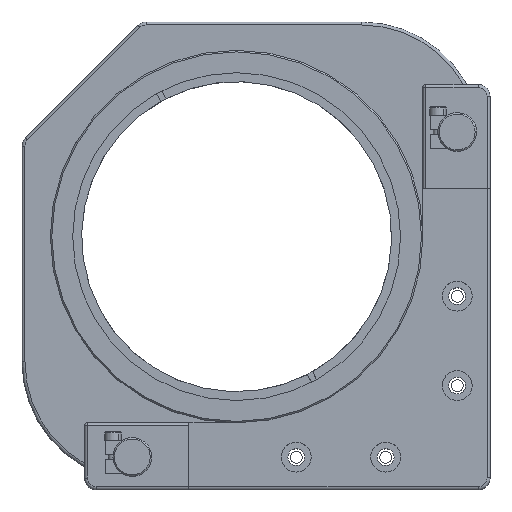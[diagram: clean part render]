
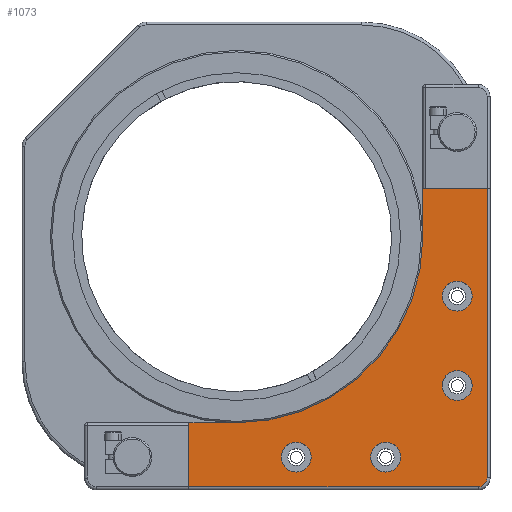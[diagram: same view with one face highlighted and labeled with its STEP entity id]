
A CAD part, top view. The second image highlights one B-rep face of the part: STEP entity #1073.
In plain terms, the highlighted planar face has unit normal (0, 0, 1).
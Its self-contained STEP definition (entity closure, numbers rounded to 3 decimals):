
#10 = LINE ( 'NONE', #367, #1453 ) ;
#36 = DIRECTION ( 'NONE',  ( 0., 0., 1. ) ) ;
#67 = DIRECTION ( 'NONE',  ( 1., 0., 0. ) ) ;
#133 = LINE ( 'NONE', #6903, #239 ) ;
#152 = VERTEX_POINT ( 'NONE', #8147 ) ;
#213 = LINE ( 'NONE', #6303, #323 ) ;
#236 = EDGE_CURVE ( 'NONE', #4759, #8592, #133, .T. ) ;
#239 = VECTOR ( 'NONE', #6725, 1000. ) ;
#323 = VECTOR ( 'NONE', #6152, 1000. ) ;
#332 = DIRECTION ( 'NONE',  ( 0., 0., 1. ) ) ;
#355 = ORIENTED_EDGE ( 'NONE', *, *, #8511, .T. ) ;
#367 = CARTESIAN_POINT ( 'NONE',  ( -21., -80., 8. ) ) ;
#420 = DIRECTION ( 'NONE',  ( 1., 0., 0. ) ) ;
#445 = EDGE_CURVE ( 'NONE', #6214, #7456, #4758, .T. ) ;
#504 = ORIENTED_EDGE ( 'NONE', *, *, #4830, .T. ) ;
#535 = DIRECTION ( 'NONE',  ( 0., 1., 0. ) ) ;
#613 = CARTESIAN_POINT ( 'NONE',  ( 76., -79., 8. ) ) ;
#923 = VERTEX_POINT ( 'NONE', #1200 ) ;
#989 = ORIENTED_EDGE ( 'NONE', *, *, #2345, .F. ) ;
#1014 = CIRCLE ( 'NONE', #4280, 3. ) ;
#1047 = VERTEX_POINT ( 'NONE', #6511 ) ;
#1073 = ADVANCED_FACE ( 'NONE', ( #8368, #8359, #8570, #8237, #8004 ), #1879, .F. ) ;
#1118 = LINE ( 'NONE', #4934, #4275 ) ;
#1145 = EDGE_CURVE ( 'NONE', #2220, #5980, #7772, .T. ) ;
#1168 = CARTESIAN_POINT ( 'NONE',  ( -21., -57.5, 8. ) ) ;
#1200 = CARTESIAN_POINT ( 'NONE',  ( 79., -76., 8. ) ) ;
#1217 = AXIS2_PLACEMENT_3D ( 'NONE', #1931, #1719, #1716 ) ;
#1292 = CARTESIAN_POINT ( 'NONE',  ( -5., -57.5, 8. ) ) ;
#1362 = VERTEX_POINT ( 'NONE', #5087 ) ;
#1442 = CIRCLE ( 'NONE', #8804, 5. ) ;
#1453 = VECTOR ( 'NONE', #535, 1000. ) ;
#1716 = DIRECTION ( 'NONE',  ( -1., 0., 0. ) ) ;
#1719 = DIRECTION ( 'NONE',  ( 0., 0., -1. ) ) ;
#1846 = DIRECTION ( 'NONE',  ( 0., 0., 1. ) ) ;
#1857 = DIRECTION ( 'NONE',  ( 1., 0., 0. ) ) ;
#1865 = CARTESIAN_POINT ( 'NONE',  ( 69., -45., 8. ) ) ;
#1879 = PLANE ( 'NONE',  #1217 ) ;
#1931 = CARTESIAN_POINT ( 'NONE',  ( 80., 80., 8. ) ) ;
#2044 = EDGE_CURVE ( 'NONE', #1362, #5215, #2048, .T. ) ;
#2048 = CIRCLE ( 'NONE', #5023, 5. ) ;
#2090 = CARTESIAN_POINT ( 'NONE',  ( 64., -15., 8. ) ) ;
#2129 = ORIENTED_EDGE ( 'NONE', *, *, #8568, .F. ) ;
#2138 = ORIENTED_EDGE ( 'NONE', *, *, #8894, .F. ) ;
#2164 = AXIS2_PLACEMENT_3D ( 'NONE', #7238, #332, #420 ) ;
#2182 = CARTESIAN_POINT ( 'NONE',  ( 10., -69., 8. ) ) ;
#2220 = VERTEX_POINT ( 'NONE', #2090 ) ;
#2257 = ORIENTED_EDGE ( 'NONE', *, *, #445, .F. ) ;
#2345 = EDGE_CURVE ( 'NONE', #7723, #152, #1442, .T. ) ;
#2393 = CARTESIAN_POINT ( 'NONE',  ( 20., -69., 8. ) ) ;
#2488 = DIRECTION ( 'NONE',  ( -1., 0., 0. ) ) ;
#2570 = ORIENTED_EDGE ( 'NONE', *, *, #8314, .F. ) ;
#2844 = ORIENTED_EDGE ( 'NONE', *, *, #7419, .T. ) ;
#2848 = CARTESIAN_POINT ( 'NONE',  ( 69., -15., 8. ) ) ;
#2909 = DIRECTION ( 'NONE',  ( 1., 0., 0. ) ) ;
#3099 = CARTESIAN_POINT ( 'NONE',  ( 40., -69., 8. ) ) ;
#3101 = CARTESIAN_POINT ( 'NONE',  ( 45., -69., 8. ) ) ;
#3103 = DIRECTION ( 'NONE',  ( 0., 0., 1. ) ) ;
#3122 = DIRECTION ( 'NONE',  ( 1., 0., 0. ) ) ;
#3218 = CARTESIAN_POINT ( 'NONE',  ( 15., -69., 8. ) ) ;
#3228 = DIRECTION ( 'NONE',  ( 1., 0., 0. ) ) ;
#3271 = DIRECTION ( 'NONE',  ( 0., 0., 1. ) ) ;
#3314 = VERTEX_POINT ( 'NONE', #1168 ) ;
#3709 = VERTEX_POINT ( 'NONE', #1292 ) ;
#3828 = DIRECTION ( 'NONE',  ( 0., 0., 1. ) ) ;
#4032 = ORIENTED_EDGE ( 'NONE', *, *, #1145, .F. ) ;
#4150 = ORIENTED_EDGE ( 'NONE', *, *, #236, .T. ) ;
#4275 = VECTOR ( 'NONE', #4604, 1000. ) ;
#4280 = AXIS2_PLACEMENT_3D ( 'NONE', #7394, #3828, #5512 ) ;
#4478 = ORIENTED_EDGE ( 'NONE', *, *, #6887, .T. ) ;
#4556 = EDGE_LOOP ( 'NONE', ( #5101, #5547 ) ) ;
#4604 = DIRECTION ( 'NONE',  ( 0., 1., 0. ) ) ;
#4748 = VECTOR ( 'NONE', #8604, 1000. ) ;
#4758 = LINE ( 'NONE', #6454, #4748 ) ;
#4759 = VERTEX_POINT ( 'NONE', #4793 ) ;
#4793 = CARTESIAN_POINT ( 'NONE',  ( -21., -79., 8. ) ) ;
#4830 = EDGE_CURVE ( 'NONE', #3709, #3314, #6053, .T. ) ;
#4923 = AXIS2_PLACEMENT_3D ( 'NONE', #3218, #3271, #3228 ) ;
#4934 = CARTESIAN_POINT ( 'NONE',  ( 79., 80., 8. ) ) ;
#5023 = AXIS2_PLACEMENT_3D ( 'NONE', #3101, #3103, #3122 ) ;
#5087 = CARTESIAN_POINT ( 'NONE',  ( 50., -69., 8. ) ) ;
#5101 = ORIENTED_EDGE ( 'NONE', *, *, #7173, .F. ) ;
#5106 = DIRECTION ( 'NONE',  ( 0., 0., 1. ) ) ;
#5117 = DIRECTION ( 'NONE',  ( 1., 0., 0. ) ) ;
#5154 = VERTEX_POINT ( 'NONE', #2393 ) ;
#5165 = EDGE_LOOP ( 'NONE', ( #2129, #4150, #6151, #4478, #2257, #355, #2844, #504 ) ) ;
#5175 = CARTESIAN_POINT ( 'NONE',  ( 15., -69., 8. ) ) ;
#5215 = VERTEX_POINT ( 'NONE', #3099 ) ;
#5472 = CIRCLE ( 'NONE', #4923, 5. ) ;
#5512 = DIRECTION ( 'NONE',  ( -1., 0., 0. ) ) ;
#5533 = CARTESIAN_POINT ( 'NONE',  ( 57.5, 21., 8. ) ) ;
#5547 = ORIENTED_EDGE ( 'NONE', *, *, #8234, .F. ) ;
#5549 = EDGE_LOOP ( 'NONE', ( #5971, #4032 ) ) ;
#5647 = VERTEX_POINT ( 'NONE', #2182 ) ;
#5701 = VECTOR ( 'NONE', #2488, 1000. ) ;
#5795 = CARTESIAN_POINT ( 'NONE',  ( 69., -45., 8. ) ) ;
#5822 = DIRECTION ( 'NONE',  ( 0., 0., 1. ) ) ;
#5823 = DIRECTION ( 'NONE',  ( 1., 0., 0. ) ) ;
#5971 = ORIENTED_EDGE ( 'NONE', *, *, #8981, .F. ) ;
#5980 = VERTEX_POINT ( 'NONE', #6895 ) ;
#6053 = LINE ( 'NONE', #8783, #5701 ) ;
#6071 = CIRCLE ( 'NONE', #6890, 5. ) ;
#6151 = ORIENTED_EDGE ( 'NONE', *, *, #6620, .T. ) ;
#6152 = DIRECTION ( 'NONE',  ( 0., -1., 0. ) ) ;
#6214 = VERTEX_POINT ( 'NONE', #5533 ) ;
#6222 = CARTESIAN_POINT ( 'NONE',  ( 64., -45., 8. ) ) ;
#6257 = AXIS2_PLACEMENT_3D ( 'NONE', #5175, #5106, #5117 ) ;
#6296 = CIRCLE ( 'NONE', #7106, 5. ) ;
#6303 = CARTESIAN_POINT ( 'NONE',  ( 57.5, 56., 8. ) ) ;
#6310 = AXIS2_PLACEMENT_3D ( 'NONE', #5795, #5822, #5823 ) ;
#6454 = CARTESIAN_POINT ( 'NONE',  ( 57.5, 21., 8. ) ) ;
#6511 = CARTESIAN_POINT ( 'NONE',  ( 57.5, 5., 8. ) ) ;
#6620 = EDGE_CURVE ( 'NONE', #8592, #923, #1014, .T. ) ;
#6725 = DIRECTION ( 'NONE',  ( 1., 0., 0. ) ) ;
#6792 = EDGE_LOOP ( 'NONE', ( #8010, #2138 ) ) ;
#6833 = EDGE_LOOP ( 'NONE', ( #2570, #989 ) ) ;
#6887 = EDGE_CURVE ( 'NONE', #923, #7456, #1118, .T. ) ;
#6890 = AXIS2_PLACEMENT_3D ( 'NONE', #2848, #8785, #2909 ) ;
#6895 = CARTESIAN_POINT ( 'NONE',  ( 74., -15., 8. ) ) ;
#6903 = CARTESIAN_POINT ( 'NONE',  ( 80., -79., 8. ) ) ;
#7076 = CIRCLE ( 'NONE', #6310, 5. ) ;
#7106 = AXIS2_PLACEMENT_3D ( 'NONE', #8914, #36, #67 ) ;
#7173 = EDGE_CURVE ( 'NONE', #5154, #5647, #5472, .T. ) ;
#7238 = CARTESIAN_POINT ( 'NONE',  ( 69., -15., 8. ) ) ;
#7394 = CARTESIAN_POINT ( 'NONE',  ( 76., -76., 8. ) ) ;
#7396 = CIRCLE ( 'NONE', #8293, 62.5 ) ;
#7419 = EDGE_CURVE ( 'NONE', #1047, #3709, #7396, .T. ) ;
#7456 = VERTEX_POINT ( 'NONE', #7809 ) ;
#7532 = CARTESIAN_POINT ( 'NONE',  ( -5., 5., 8. ) ) ;
#7568 = DIRECTION ( 'NONE',  ( 0., 0., -1. ) ) ;
#7622 = CIRCLE ( 'NONE', #6257, 5. ) ;
#7640 = DIRECTION ( 'NONE',  ( 1., 0., 0. ) ) ;
#7723 = VERTEX_POINT ( 'NONE', #6222 ) ;
#7772 = CIRCLE ( 'NONE', #2164, 5. ) ;
#7809 = CARTESIAN_POINT ( 'NONE',  ( 79., 21., 8. ) ) ;
#8004 = FACE_OUTER_BOUND ( 'NONE', #5165, .T. ) ;
#8010 = ORIENTED_EDGE ( 'NONE', *, *, #2044, .F. ) ;
#8147 = CARTESIAN_POINT ( 'NONE',  ( 74., -45., 8. ) ) ;
#8234 = EDGE_CURVE ( 'NONE', #5647, #5154, #7622, .T. ) ;
#8237 = FACE_BOUND ( 'NONE', #5549, .T. ) ;
#8293 = AXIS2_PLACEMENT_3D ( 'NONE', #7532, #7568, #7640 ) ;
#8314 = EDGE_CURVE ( 'NONE', #152, #7723, #7076, .T. ) ;
#8359 = FACE_BOUND ( 'NONE', #6792, .T. ) ;
#8368 = FACE_BOUND ( 'NONE', #6833, .T. ) ;
#8511 = EDGE_CURVE ( 'NONE', #6214, #1047, #213, .T. ) ;
#8568 = EDGE_CURVE ( 'NONE', #4759, #3314, #10, .T. ) ;
#8570 = FACE_BOUND ( 'NONE', #4556, .T. ) ;
#8592 = VERTEX_POINT ( 'NONE', #613 ) ;
#8604 = DIRECTION ( 'NONE',  ( 1., 0., 0. ) ) ;
#8783 = CARTESIAN_POINT ( 'NONE',  ( -5., -57.5, 8. ) ) ;
#8785 = DIRECTION ( 'NONE',  ( 0., 0., 1. ) ) ;
#8804 = AXIS2_PLACEMENT_3D ( 'NONE', #1865, #1846, #1857 ) ;
#8894 = EDGE_CURVE ( 'NONE', #5215, #1362, #6296, .T. ) ;
#8914 = CARTESIAN_POINT ( 'NONE',  ( 45., -69., 8. ) ) ;
#8981 = EDGE_CURVE ( 'NONE', #5980, #2220, #6071, .T. ) ;
